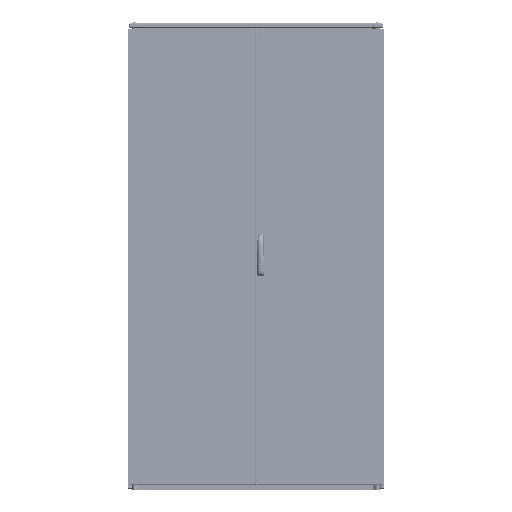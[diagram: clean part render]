
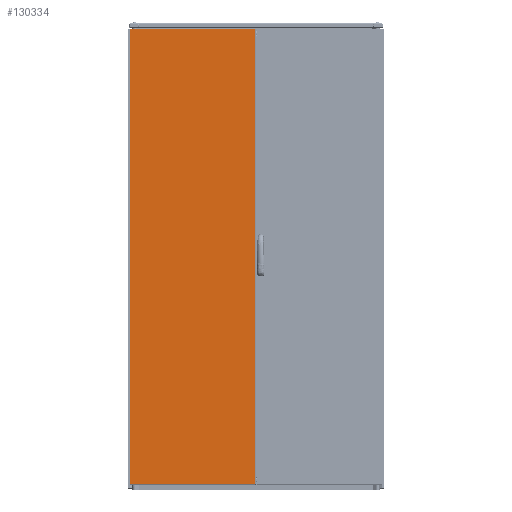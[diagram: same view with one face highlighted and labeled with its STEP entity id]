
A CAD part, top view. The second image highlights one B-rep face of the part: STEP entity #130334.
In plain terms, the highlighted planar face has unit normal (0, 0, 1).
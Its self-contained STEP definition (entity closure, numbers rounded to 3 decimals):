
#5890 = VECTOR ( 'NONE', #245733, 1000. ) ;
#12563 = VECTOR ( 'NONE', #383817, 1000. ) ;
#23334 = EDGE_CURVE ( 'NONE', #77696, #77255, #321606, .T. ) ;
#25179 = EDGE_CURVE ( 'NONE', #168849, #77696, #72328, .T. ) ;
#25892 = CARTESIAN_POINT ( 'NONE',  ( 592., 2160., 19. ) ) ;
#41227 = CARTESIAN_POINT ( 'NONE',  ( 2.001, 3., 19. ) ) ;
#59039 = LINE ( 'NONE', #25892, #5890 ) ;
#63234 = FACE_OUTER_BOUND ( 'NONE', #366690, .T. ) ;
#68418 = CARTESIAN_POINT ( 'NONE',  ( 592., 2157., 19. ) ) ;
#72328 = LINE ( 'NONE', #229920, #127138 ) ;
#77255 = VERTEX_POINT ( 'NONE', #273743 ) ;
#77696 = VERTEX_POINT ( 'NONE', #41227 ) ;
#100436 = DIRECTION ( 'NONE',  ( -1., 0., 0. ) ) ;
#104092 = AXIS2_PLACEMENT_3D ( 'NONE', #378380, #191753, #100436 ) ;
#104781 = CARTESIAN_POINT ( 'NONE',  ( 0., 2157., 19. ) ) ;
#127138 = VECTOR ( 'NONE', #342661, 1000. ) ;
#130334 = ADVANCED_FACE ( 'NONE', ( #63234 ), #228950, .F. ) ;
#168849 = VERTEX_POINT ( 'NONE', #271792 ) ;
#184234 = EDGE_CURVE ( 'NONE', #77255, #287732, #59039, .T. ) ;
#191753 = DIRECTION ( 'NONE',  ( 0., 0., -1. ) ) ;
#210824 = ORIENTED_EDGE ( 'NONE', *, *, #184234, .T. ) ;
#224243 = CARTESIAN_POINT ( 'NONE',  ( 0., 3., 19. ) ) ;
#228950 = PLANE ( 'NONE',  #104092 ) ;
#229920 = CARTESIAN_POINT ( 'NONE',  ( 2.001, 3., 19. ) ) ;
#231008 = ORIENTED_EDGE ( 'NONE', *, *, #25179, .T. ) ;
#231263 = DIRECTION ( 'NONE',  ( -1., 0., 0. ) ) ;
#234503 = ORIENTED_EDGE ( 'NONE', *, *, #23334, .T. ) ;
#243286 = EDGE_CURVE ( 'NONE', #287732, #168849, #388801, .T. ) ;
#245733 = DIRECTION ( 'NONE',  ( 0., 1., 0. ) ) ;
#271792 = CARTESIAN_POINT ( 'NONE',  ( 2.001, 2157., 19. ) ) ;
#273743 = CARTESIAN_POINT ( 'NONE',  ( 592., 3., 19. ) ) ;
#287732 = VERTEX_POINT ( 'NONE', #68418 ) ;
#293990 = ORIENTED_EDGE ( 'NONE', *, *, #243286, .T. ) ;
#321606 = LINE ( 'NONE', #224243, #12563 ) ;
#342661 = DIRECTION ( 'NONE',  ( 0., -1., 0. ) ) ;
#366690 = EDGE_LOOP ( 'NONE', ( #293990, #231008, #234503, #210824 ) ) ;
#378380 = CARTESIAN_POINT ( 'NONE',  ( 0., 2160., 19. ) ) ;
#383817 = DIRECTION ( 'NONE',  ( 1., 0., 0. ) ) ;
#388801 = LINE ( 'NONE', #104781, #401022 ) ;
#401022 = VECTOR ( 'NONE', #231263, 1000. ) ;
